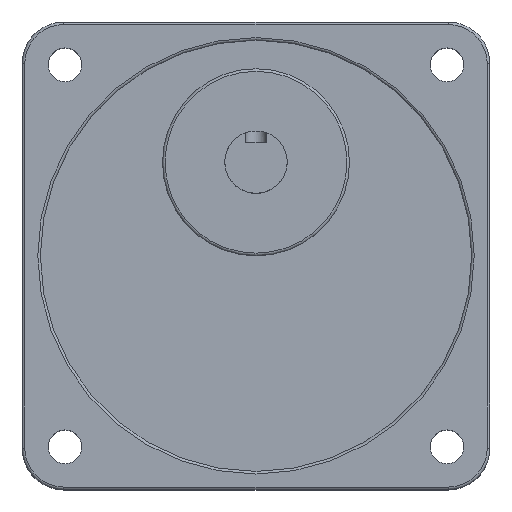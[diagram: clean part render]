
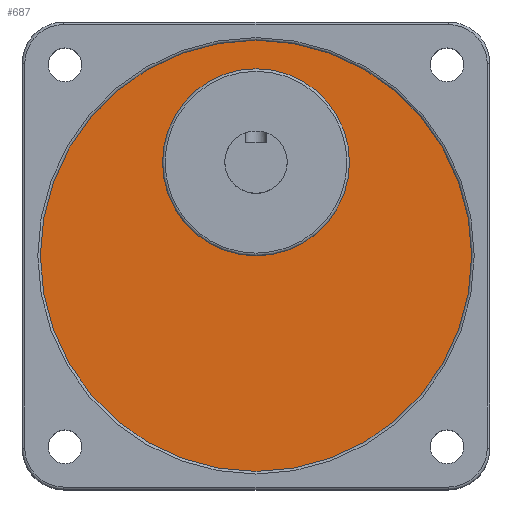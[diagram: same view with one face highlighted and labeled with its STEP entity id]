
A CAD part, top view. The second image highlights one B-rep face of the part: STEP entity #687.
In plain terms, the highlighted planar face has unit normal (0, 0, 1).
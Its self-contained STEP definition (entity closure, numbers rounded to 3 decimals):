
#621=CARTESIAN_POINT('',(18.0,18.,41.5));
#622=VERTEX_POINT('',#621);
#623=CARTESIAN_POINT('',(0.0,18.0,41.5));
#624=DIRECTION('',(0.0,0.0,1.0));
#625=DIRECTION('',(-1.0,0.0,0.0));
#626=AXIS2_PLACEMENT_3D('',#623,#624,#625);
#627=CIRCLE('',#626,18.0);
#628=EDGE_CURVE('',#622,#622,#627,.T.);
#661=CARTESIAN_POINT('',(41.5,0.,41.5));
#662=VERTEX_POINT('',#661);
#663=CARTESIAN_POINT('',(0.0,0.0,41.5));
#664=DIRECTION('',(0.0,0.0,1.0));
#665=DIRECTION('',(-1.0,0.0,0.0));
#666=AXIS2_PLACEMENT_3D('',#663,#664,#665);
#667=CIRCLE('',#666,41.5);
#668=EDGE_CURVE('',#662,#662,#667,.T.);
#676=CARTESIAN_POINT('',(0.0,0.0,41.5));
#677=DIRECTION('',(0.0,0.0,-1.0));
#678=DIRECTION('',(-1.0,0.0,0.0));
#679=AXIS2_PLACEMENT_3D('',#676,#677,#678);
#680=PLANE('',#679);
#681=ORIENTED_EDGE('',*,*,#668,.T.);
#682=EDGE_LOOP('',(#681));
#683=FACE_OUTER_BOUND('',#682,.T.);
#684=ORIENTED_EDGE('',*,*,#628,.F.);
#685=EDGE_LOOP('',(#684));
#686=FACE_BOUND('',#685,.T.);
#687=ADVANCED_FACE('',(#683,#686),#680,.F.);
